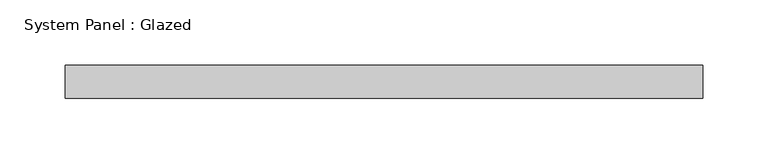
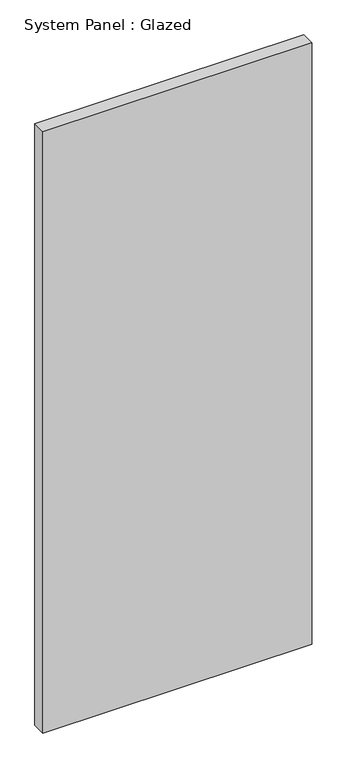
"""IFC4 building model written with IfcOpenShell, lengths in millimetres: plate geometry, System Panel : Glazed."""

import ifcopenshell
import ifcopenshell.guid

model = None  # the IFC model being written
_history = None  # IfcOwnerHistory: only IFC2X3 demands one
_inside = {}  # id of a spatial element -> (the spatial element, [elements in it])
_under = {}  # id of a project, library or spatial element -> (it, [spatial elements below it])
_declared = {}  # id of a project -> (the project, [libraries it declares])
_typed = {}  # id of a type object -> (the type object, [elements of that type])
_made_of = {}  # id of a material, layer set ... -> (it, [elements and type objects made of it])


def new_model(schema):
    """Start an empty IFC model of exactly this schema.

    Asked for "IFC4X3", IfcOpenShell would pick the latest addendum, in which some entities
    have other attributes; the version numbers below select the first issue.
    IFC2X3 requires an IfcOwnerHistory on every rooted entity: one is made here for all.
    """
    global model, _history
    if schema == "IFC4X3":
        model = ifcopenshell.file(schema_version=(4, 3, 0, 0))
    else:
        model = ifcopenshell.file(schema=schema)
    _inside.clear()
    _under.clear()
    _declared.clear()
    _typed.clear()
    _made_of.clear()
    _history = None
    if model.schema == "IFC2X3":
        org = make("IfcOrganization", Name="unknown")
        user = make(
            "IfcPersonAndOrganization",
            ThePerson=make("IfcPerson", FamilyName="unknown"),
            TheOrganization=org,
        )
        app = make(
            "IfcApplication",
            ApplicationDeveloper=org,
            Version="unknown",
            ApplicationFullName="unknown",
            ApplicationIdentifier="unknown",
        )
        _history = make(
            "IfcOwnerHistory",
            OwningUser=user,
            OwningApplication=app,
            ChangeAction="ADDED",
            CreationDate=0,
        )
    return model


def make(cls, **values):
    """One entity of the class cls with the attributes given. An attribute that is None is left unset."""
    return model.create_entity(
        cls, **{name: value for name, value in values.items() if value is not None}
    )


def rooted(cls, **values):
    """An entity with a GlobalId (a new one), such as an element, a storey or a relation."""
    return make(cls, GlobalId=ifcopenshell.guid.new(), OwnerHistory=_history, **values)


def si_unit(unit_type, name, prefix=None):
    """IfcSIUnit, for example si_unit("LENGTHUNIT", "METRE", prefix="MILLI")."""
    return make("IfcSIUnit", UnitType=unit_type, Prefix=prefix, Name=name)


def assignment(units):
    """IfcUnitAssignment: the units of a project."""
    return None if units is None else make("IfcUnitAssignment", Units=units)


def point(xyz):
    """IfcCartesianPoint."""
    return None if xyz is None else make("IfcCartesianPoint", Coordinates=xyz)


def direction(xyz):
    """IfcDirection."""
    return None if xyz is None else make("IfcDirection", DirectionRatios=xyz)


def frame(location, z_axis=None, x_axis=None):
    """IfcAxis2Placement3D, a coordinate frame: its origin and axes. An axis left out is left unset."""
    return make(
        "IfcAxis2Placement3D",
        Location=point(location),
        Axis=direction(z_axis),
        RefDirection=direction(x_axis),
    )


def origin():
    """The frame at (0, 0, 0) with its axes left unset."""
    return frame((0.0, 0.0, 0.0))


def origin_with_axes():
    """The frame at (0, 0, 0) with the z axis (0, 0, 1) and the x axis (1, 0, 0) written out."""
    return frame((0.0, 0.0, 0.0), z_axis=(0.0, 0.0, 1.0), x_axis=(1.0, 0.0, 0.0))


def place(relative_to, where):
    """IfcLocalPlacement: puts the frame where relative to a parent placement (None: the world)."""
    return make(
        "IfcLocalPlacement", PlacementRelTo=relative_to, RelativePlacement=where
    )


def context(
    kind, dimensions, precision=None, world=None, true_north=None, identifier=None
):
    """IfcGeometricRepresentationContext, for example the 3D "Model" context."""
    return make(
        "IfcGeometricRepresentationContext",
        ContextIdentifier=identifier,
        ContextType=kind,
        CoordinateSpaceDimension=dimensions,
        Precision=precision,
        WorldCoordinateSystem=world,
        TrueNorth=true_north,
    )


def project(units=None, contexts=None):
    """IfcProject with its units and contexts."""
    return rooted(
        "IfcProject",
        Name="project",
        RepresentationContexts=contexts,
        UnitsInContext=assignment(units),
    )


def spatial(cls, under=None, at=None, **own):
    """A site, building, storey or space (cls), placed at a placement, below another one or the project."""
    s = rooted(cls, ObjectPlacement=at, **own)
    if under is not None:
        _under.setdefault(under.id(), (under, []))[1].append(s)
    return s


def polyline(points):
    """IfcPolyline through the points."""
    return make("IfcPolyline", Points=[point(p) for p in points])


def outline(outer, holes=None, kind="AREA"):
    """IfcArbitraryClosedProfileDef: a profile drawn as a closed curve; with holes, ...WithVoids."""
    if holes is None:
        return make("IfcArbitraryClosedProfileDef", ProfileType=kind, OuterCurve=outer)
    return make(
        "IfcArbitraryProfileDefWithVoids",
        ProfileType=kind,
        OuterCurve=outer,
        InnerCurves=holes,
    )


def extrude(swept, where, along, depth):
    """IfcExtrudedAreaSolid: the profile swept, set in the frame where, extruded along a direction by depth."""
    return make(
        "IfcExtrudedAreaSolid",
        SweptArea=swept,
        Position=where,
        ExtrudedDirection=direction(along),
        Depth=depth,
    )


def shape(context_of_items, identifier, shape_type, items):
    """IfcShapeRepresentation: the items that make up one representation, for example the "Body"."""
    return make(
        "IfcShapeRepresentation",
        ContextOfItems=context_of_items,
        RepresentationIdentifier=identifier,
        RepresentationType=shape_type,
        Items=items,
    )


def source(mapping_origin, context_of_items, identifier, shape_type, items):
    """IfcRepresentationMap: a shape defined once, which mapped items show again and again."""
    return make(
        "IfcRepresentationMap",
        MappingOrigin=mapping_origin,
        MappedRepresentation=shape(context_of_items, identifier, shape_type, items),
    )


def transform(
    local_origin,
    x_axis=None,
    y_axis=None,
    z_axis=None,
    scale=None,
    scale2=None,
    scale3=None,
    uniform=True,
):
    """IfcCartesianTransformationOperator3D, or its non-uniform kind. x_axis, y_axis, z_axis: its Axis1, 2, 3."""
    if uniform:
        return make(
            "IfcCartesianTransformationOperator3D",
            Axis1=direction(x_axis),
            Axis2=direction(y_axis),
            LocalOrigin=point(local_origin),
            Scale=scale,
            Axis3=direction(z_axis),
        )
    return make(
        "IfcCartesianTransformationOperator3DnonUniform",
        Axis1=direction(x_axis),
        Axis2=direction(y_axis),
        LocalOrigin=point(local_origin),
        Scale=scale,
        Axis3=direction(z_axis),
        Scale2=scale2,
        Scale3=scale3,
    )


def mapped(mapping_source, mapping_target):
    """IfcMappedItem: shows the shape of a source again, moved by a transform."""
    return make(
        "IfcMappedItem", MappingSource=mapping_source, MappingTarget=mapping_target
    )


def made_of(thing, what):
    """Note that an element or type object is made of a material, layer set ...; save() writes the relation."""
    if what is not None:
        _made_of.setdefault(what.id(), (what, []))[1].append(thing)
    return thing


def element(
    cls,
    number,
    at=None,
    inside=None,
    cuts=None,
    type_object=None,
    material=None,
    context=None,
    identifier="Body",
    shape_type=None,
    held_by="IfcProductDefinitionShape",
    body=None,
    shapes=None,
    **own,
):
    """One element of the class cls, such as IfcWall. Its Tag is "e" and its number.

    at: its placement. inside: the storey or other place that contains it. cuts: it is an
    opening in that element (IfcRelVoidsElement). A single representation is given by context,
    identifier, shape_type and body (its items); several are given by shapes. held_by: the class
    of the entity that holds the representations. save() writes the other relations.
    """
    e = rooted(cls, Tag="e%d" % number, ObjectPlacement=at, **own)
    if body is not None:
        shapes = [shape(context, identifier, shape_type, body)]
    if shapes is not None:
        e.Representation = make(held_by, Representations=shapes)
    if inside is not None:
        _inside.setdefault(inside.id(), (inside, []))[1].append(e)
    if cuts is not None:
        rooted(
            "IfcRelVoidsElement", RelatingBuildingElement=cuts, RelatedOpeningElement=e
        )
    if type_object is not None:
        _typed.setdefault(type_object.id(), (type_object, []))[1].append(e)
    return made_of(e, material)


def aggregate(whole, parts):
    """IfcRelAggregates: a whole, such as a stair, and the parts it consists of."""
    return rooted("IfcRelAggregates", RelatingObject=whole, RelatedObjects=parts)


def save(model, path):
    """Write the relations noted so far, then the file.

    IfcRelAggregates (storeys below a building ...), IfcRelContainedInSpatialStructure (elements
    in a storey), IfcRelDefinesByType, IfcRelAssociatesMaterial and IfcRelDeclares: one each for
    every whole, place, type object, material and project.
    """
    for whole, parts in _under.values():
        aggregate(whole, parts)
    for where, things in _inside.values():
        rooted(
            "IfcRelContainedInSpatialStructure",
            RelatedElements=things,
            RelatingStructure=where,
        )
    for kind, things in _typed.values():
        rooted("IfcRelDefinesByType", RelatedObjects=things, RelatingType=kind)
    for what, things in _made_of.values():
        rooted("IfcRelAssociatesMaterial", RelatedObjects=things, RelatingMaterial=what)
    for by, libraries in _declared.values():
        rooted("IfcRelDeclares", RelatingContext=by, RelatedDefinitions=libraries)
    model.write(path)


def system_panel_glazed_81ef7bb2(model_context):
    return source(origin(), model_context, "Body", "SweptSolid", [
        extrude(outline(polyline([(244.475, -44.45), (-244.475, -44.45), (-244.475, -19.05), (244.475, -19.05), (244.475, -44.45)])), origin_with_axes(), (0.0, 0.0, 1.0), 1155.7),
    ])


if __name__ == "__main__":
    model = new_model("IFC4")
    model_context = context("Model", 3, world=origin())
    ifc_project = project(units=[si_unit("LENGTHUNIT", "METRE", prefix="MILLI")], contexts=[model_context])
    site = spatial("IfcSite", under=ifc_project)
    building = spatial("IfcBuilding", under=site)
    placement = place(None, origin())
    system_panel_glazed_shape = system_panel_glazed_81ef7bb2(model_context)
    element("IfcPlate", 1, ObjectType="System Panel : Glazed", at=placement, inside=building, context=model_context, shape_type="MappedRepresentation", body=[
        mapped(system_panel_glazed_shape, transform((0.0, 0.0, 0.0), x_axis=(1.0, 0.0, 0.0), y_axis=(0.0, 1.0, 0.0), z_axis=(0.0, 0.0, 1.0))),
    ])
    save(model, "model.ifc")
